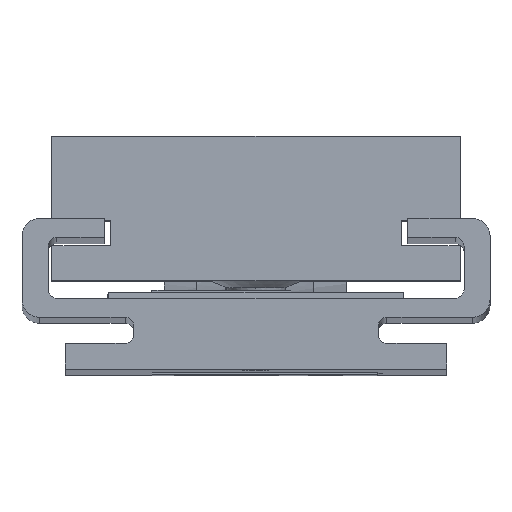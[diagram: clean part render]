
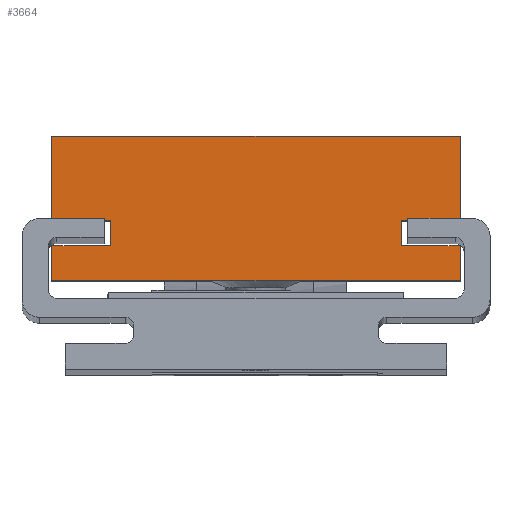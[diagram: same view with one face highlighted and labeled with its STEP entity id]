
A CAD part, top view. The second image highlights one B-rep face of the part: STEP entity #3664.
In plain terms, the highlighted planar face has unit normal (0, 0, 1).
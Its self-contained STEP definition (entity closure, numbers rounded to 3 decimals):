
#557 = ORIENTED_EDGE ( 'NONE', *, *, #19088, .T. ) ;
#643 = CARTESIAN_POINT ( 'NONE',  ( -11.775, 4.15, 15. ) ) ;
#1027 = CARTESIAN_POINT ( 'NONE',  ( -11.775, -0.7, 15. ) ) ;
#1244 = CARTESIAN_POINT ( 'NONE',  ( 8.4, -0.7, 15. ) ) ;
#1245 = CARTESIAN_POINT ( 'NONE',  ( -11.775, 4.15, 15. ) ) ;
#2830 = LINE ( 'NONE', #38638, #35307 ) ;
#2978 = DIRECTION ( 'NONE',  ( -1., 0., 0. ) ) ;
#3135 = DIRECTION ( 'NONE',  ( 0., 1., 0. ) ) ;
#3142 = ORIENTED_EDGE ( 'NONE', *, *, #37447, .T. ) ;
#3664 = ADVANCED_FACE ( 'NONE', ( #29072 ), #31629, .T. ) ;
#3800 = ORIENTED_EDGE ( 'NONE', *, *, #26998, .T. ) ;
#4246 = VERTEX_POINT ( 'NONE', #37630 ) ;
#4255 = EDGE_CURVE ( 'NONE', #4246, #28776, #13233, .T. ) ;
#4965 = CARTESIAN_POINT ( 'NONE',  ( 11.775, -4.15, 15. ) ) ;
#5030 = EDGE_CURVE ( 'NONE', #30306, #5566, #2830, .T. ) ;
#5080 = VERTEX_POINT ( 'NONE', #32934 ) ;
#5566 = VERTEX_POINT ( 'NONE', #7533 ) ;
#5898 = LINE ( 'NONE', #33426, #28448 ) ;
#5974 = ORIENTED_EDGE ( 'NONE', *, *, #7988, .T. ) ;
#7327 = VECTOR ( 'NONE', #24084, 1000. ) ;
#7533 = CARTESIAN_POINT ( 'NONE',  ( -11.775, -2.15, 15. ) ) ;
#7988 = EDGE_CURVE ( 'NONE', #14561, #30306, #8753, .T. ) ;
#8446 = VECTOR ( 'NONE', #15303, 1000. ) ;
#8753 = LINE ( 'NONE', #36487, #7327 ) ;
#10585 = VERTEX_POINT ( 'NONE', #33698 ) ;
#10759 = DIRECTION ( 'NONE',  ( 0., 0., 1. ) ) ;
#10865 = VECTOR ( 'NONE', #36667, 1000. ) ;
#10917 = CARTESIAN_POINT ( 'NONE',  ( -11.775, -0.7, 15. ) ) ;
#11249 = CARTESIAN_POINT ( 'NONE',  ( -11.775, 4.15, 15. ) ) ;
#11457 = CARTESIAN_POINT ( 'NONE',  ( 11.775, -0.7, 15. ) ) ;
#12072 = LINE ( 'NONE', #20744, #27190 ) ;
#12340 = LINE ( 'NONE', #27299, #8446 ) ;
#13034 = DIRECTION ( 'NONE',  ( 1., 0., 0. ) ) ;
#13233 = LINE ( 'NONE', #22866, #29729 ) ;
#13600 = LINE ( 'NONE', #28558, #30569 ) ;
#14561 = VERTEX_POINT ( 'NONE', #34665 ) ;
#14660 = VECTOR ( 'NONE', #23461, 1000. ) ;
#15303 = DIRECTION ( 'NONE',  ( -1., 0., 0. ) ) ;
#15834 = DIRECTION ( 'NONE',  ( 1., 0., 0. ) ) ;
#16044 = VECTOR ( 'NONE', #2978, 1000. ) ;
#18162 = VERTEX_POINT ( 'NONE', #1245 ) ;
#18601 = ORIENTED_EDGE ( 'NONE', *, *, #23552, .T. ) ;
#18685 = AXIS2_PLACEMENT_3D ( 'NONE', #22576, #10759, #22770 ) ;
#18757 = LINE ( 'NONE', #1027, #24602 ) ;
#19088 = EDGE_CURVE ( 'NONE', #26906, #22511, #13600, .T. ) ;
#19321 = EDGE_LOOP ( 'NONE', ( #557, #26392, #20394, #31071, #37802, #3800, #18601, #22066, #5974, #32583, #29135, #3142 ) ) ;
#20394 = ORIENTED_EDGE ( 'NONE', *, *, #4255, .T. ) ;
#20473 = CARTESIAN_POINT ( 'NONE',  ( -8.4, -2.15, 15. ) ) ;
#20744 = CARTESIAN_POINT ( 'NONE',  ( -11.775, -2.15, 15. ) ) ;
#21669 = EDGE_CURVE ( 'NONE', #24177, #14561, #18757, .T. ) ;
#22066 = ORIENTED_EDGE ( 'NONE', *, *, #21669, .T. ) ;
#22511 = VERTEX_POINT ( 'NONE', #23010 ) ;
#22576 = CARTESIAN_POINT ( 'NONE',  ( 0., 0., 15. ) ) ;
#22770 = DIRECTION ( 'NONE',  ( 1., 0., 0. ) ) ;
#22866 = CARTESIAN_POINT ( 'NONE',  ( 8.4, -0.7, 15. ) ) ;
#23010 = CARTESIAN_POINT ( 'NONE',  ( 11.775, -2.15, 15. ) ) ;
#23283 = EDGE_CURVE ( 'NONE', #5566, #29942, #12072, .T. ) ;
#23461 = DIRECTION ( 'NONE',  ( 1., 0., 0. ) ) ;
#23491 = DIRECTION ( 'NONE',  ( -1., 0., 0. ) ) ;
#23552 = EDGE_CURVE ( 'NONE', #18162, #24177, #27616, .T. ) ;
#24075 = DIRECTION ( 'NONE',  ( 0., -1., 0. ) ) ;
#24084 = DIRECTION ( 'NONE',  ( 0., -1., 0. ) ) ;
#24177 = VERTEX_POINT ( 'NONE', #10917 ) ;
#24602 = VECTOR ( 'NONE', #13034, 1000. ) ;
#26392 = ORIENTED_EDGE ( 'NONE', *, *, #31811, .T. ) ;
#26906 = VERTEX_POINT ( 'NONE', #4965 ) ;
#26998 = EDGE_CURVE ( 'NONE', #5080, #18162, #38209, .T. ) ;
#27190 = VECTOR ( 'NONE', #24075, 1000. ) ;
#27299 = CARTESIAN_POINT ( 'NONE',  ( 11.775, -2.15, 15. ) ) ;
#27616 = LINE ( 'NONE', #643, #10865 ) ;
#28448 = VECTOR ( 'NONE', #3135, 1000. ) ;
#28558 = CARTESIAN_POINT ( 'NONE',  ( 11.775, -2.15, 15. ) ) ;
#28776 = VERTEX_POINT ( 'NONE', #1244 ) ;
#29072 = FACE_OUTER_BOUND ( 'NONE', #19321, .T. ) ;
#29135 = ORIENTED_EDGE ( 'NONE', *, *, #23283, .T. ) ;
#29294 = EDGE_CURVE ( 'NONE', #10585, #5080, #5898, .T. ) ;
#29729 = VECTOR ( 'NONE', #38012, 1000. ) ;
#29911 = EDGE_CURVE ( 'NONE', #28776, #10585, #32709, .T. ) ;
#29942 = VERTEX_POINT ( 'NONE', #35862 ) ;
#30306 = VERTEX_POINT ( 'NONE', #20473 ) ;
#30569 = VECTOR ( 'NONE', #34260, 1000. ) ;
#30792 = LINE ( 'NONE', #31376, #31929 ) ;
#31071 = ORIENTED_EDGE ( 'NONE', *, *, #29911, .T. ) ;
#31376 = CARTESIAN_POINT ( 'NONE',  ( -11.775, -4.15, 15. ) ) ;
#31629 = PLANE ( 'NONE',  #18685 ) ;
#31811 = EDGE_CURVE ( 'NONE', #22511, #4246, #12340, .T. ) ;
#31929 = VECTOR ( 'NONE', #15834, 1000. ) ;
#32583 = ORIENTED_EDGE ( 'NONE', *, *, #5030, .T. ) ;
#32709 = LINE ( 'NONE', #11457, #14660 ) ;
#32934 = CARTESIAN_POINT ( 'NONE',  ( 11.775, 4.15, 15. ) ) ;
#33426 = CARTESIAN_POINT ( 'NONE',  ( 11.775, 4.15, 15. ) ) ;
#33698 = CARTESIAN_POINT ( 'NONE',  ( 11.775, -0.7, 15. ) ) ;
#34260 = DIRECTION ( 'NONE',  ( 0., 1., 0. ) ) ;
#34665 = CARTESIAN_POINT ( 'NONE',  ( -8.4, -0.7, 15. ) ) ;
#35307 = VECTOR ( 'NONE', #23491, 1000. ) ;
#35862 = CARTESIAN_POINT ( 'NONE',  ( -11.775, -4.15, 15. ) ) ;
#36487 = CARTESIAN_POINT ( 'NONE',  ( -8.4, -0.7, 15. ) ) ;
#36667 = DIRECTION ( 'NONE',  ( 0., -1., 0. ) ) ;
#37447 = EDGE_CURVE ( 'NONE', #29942, #26906, #30792, .T. ) ;
#37630 = CARTESIAN_POINT ( 'NONE',  ( 8.4, -2.15, 15. ) ) ;
#37802 = ORIENTED_EDGE ( 'NONE', *, *, #29294, .T. ) ;
#38012 = DIRECTION ( 'NONE',  ( 0., 1., 0. ) ) ;
#38209 = LINE ( 'NONE', #11249, #16044 ) ;
#38638 = CARTESIAN_POINT ( 'NONE',  ( -11.775, -2.15, 15. ) ) ;
